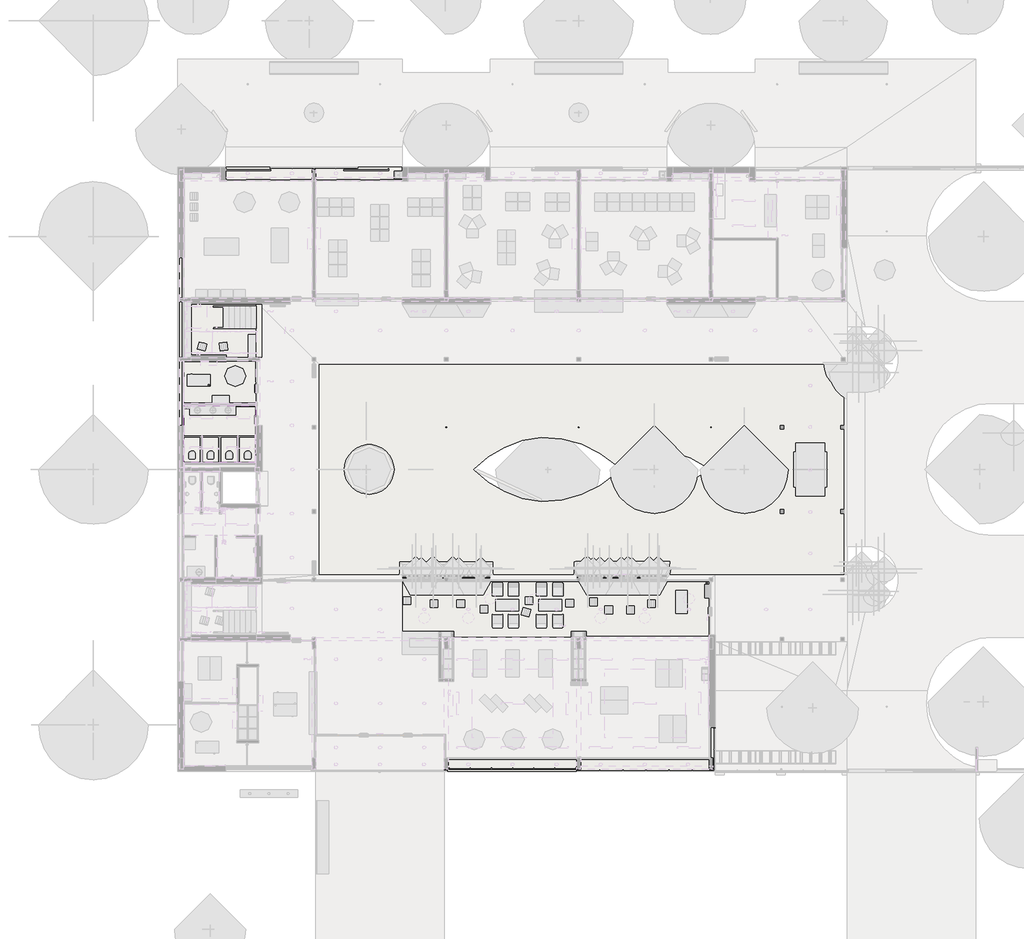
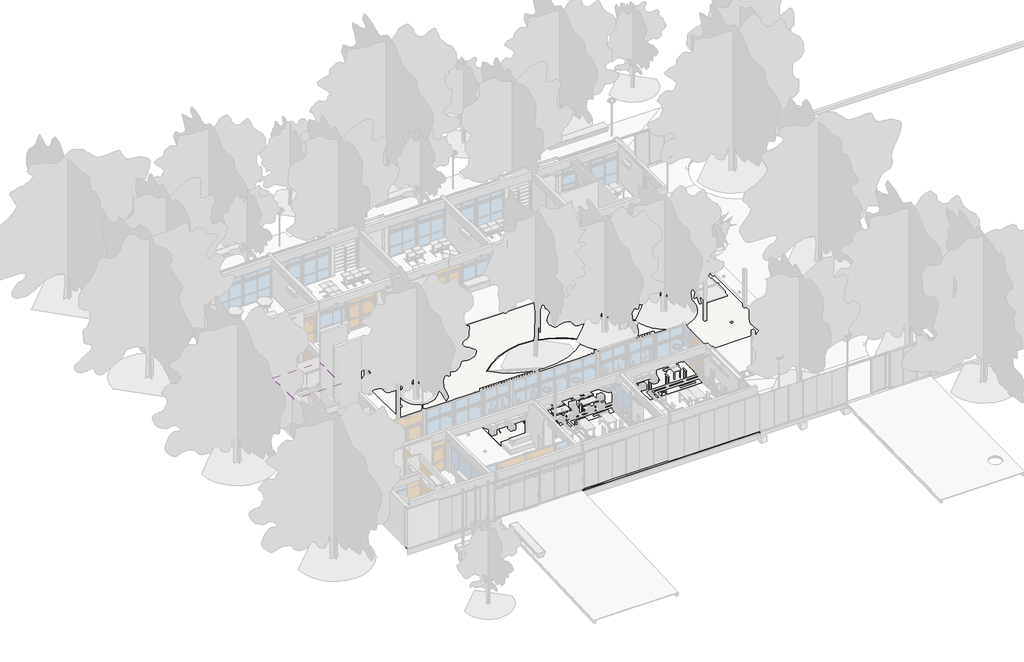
# One storey, part 8 of 22: 19 slabs, 1 covering.
"""IFC4 building model written with IfcOpenShell, lengths in millimetres."""

from ifc_helpers import new_model, si_unit, point, frame, frame_2d, origin, place, context, project, spatial, polyline, circle_curve, trimmed, segment, composite_curve, outline, extrude, faceted_brep, element, save
from ifc_brep_helpers import plane_surface, revolved_surface, advanced_brep

model = new_model("IFC4")

# Units and contexts
model_context = context("Model", 3, world=origin())
ifc_project = project(units=[si_unit("LENGTHUNIT", "METRE", prefix="MILLI")], contexts=[model_context])

# Site, building, storey
site = spatial("IfcSite", under=ifc_project)
building = spatial("IfcBuilding", under=site)
storey = spatial("IfcBuildingStorey", under=building, Name="PLanta baja", Elevation=0.0)

# Covering
placement = place(None, origin())
element("IfcCovering", 1, ObjectType="22-CIEL-PLACA DE YESO PINTADA DE BLANCO CON ESTRUCTURA 45,5MM", at=placement, inside=storey, context=model_context, shape_type="SweptSolid", body=[
    extrude(outline(polyline([(3398.7173694, 19310.2304035), (7158.7173694, 19310.2304035), (7158.7173694, 18270.2304035), (7148.7173694, 18270.2304035), (7148.7173694, 16320.2304035), (3408.7173694, 16320.2304035), (3408.7173694, 18270.2304035), (3398.7173694, 18270.2304035), (3398.7173694, 19310.2304035)])), frame((0.0, 0.0, 2600.0), z_axis=(0.0, 0.0, 1.0), x_axis=(1.0, 0.0, 0.0)), (0.0, 0.0, 1.0), 45.5),
])

# Slabs
element("IfcSlab", 2, ObjectType="C32 ENTABLONADO LAPACHO 5cm", at=placement, inside=storey, context=model_context, shape_type="SweptSolid", body=[
    extrude(outline(polyline([(14788.7173693, 10120.2304035), (30788.7173693, 10120.2304035), (30788.7173693, 7330.2304035), (30773.7173693, 7330.2304035), (30773.7173693, 7220.2304035), (14788.7173693, 7220.2304035), (14788.7173693, 10120.2304035)])), frame((0.0, 0.0, -50.0), z_axis=(0.0, 0.0, 1.0), x_axis=(1.0, 0.0, 0.0)), (0.0, 0.0, 1.0), 50.0),
])
element("IfcSlab", 3, ObjectType="C31 MONOLITICO 30x30 5cm", at=placement, inside=storey, context=model_context, shape_type="Brep", body=[
    faceted_brep([(4263.7173694, 16310.2304035, -50.0), (3408.7173694, 16310.2304035, -50.0), (3398.7173694, 16310.2304035, -50.0), (3398.7173694, 18270.2304035, -50.0), (3398.7173694, 19220.2304035, -50.0), (3713.8731174, 19220.2304035, -50.0), (3713.8731174, 18890.2304035, -50.0), (3833.8731174, 18890.2304035, -50.0), (3833.8731174, 19220.2304035, -50.0), (5618.7173693, 19220.2304035, -50.0), (5993.7173694, 19220.2304035, -50.0), (5993.7173694, 18890.2304035, -50.0), (6113.7173694, 18890.2304035, -50.0), (6113.7173694, 19220.2304035, -50.0), (7168.7173694, 19220.2304035, -50.0), (7168.7173694, 16310.2304035, -50.0), (7148.7173694, 16310.2304035, -50.0), (6293.7173694, 16310.2304035, -50.0), (6293.7173694, 16320.2304035, -50.0), (6293.7173694, 17720.2304035, -50.0), (6193.7173694, 17720.2304035, -50.0), (6193.7173694, 16320.2304035, -50.0), (6193.7173694, 16310.2304035, -50.0), (5328.7173694, 16310.2304035, -50.0), (5328.7173694, 16320.2304035, -50.0), (5328.7173694, 17720.2304035, -50.0), (5228.7173694, 17720.2304035, -50.0), (5228.7173694, 16320.2304035, -50.0), (5228.7173694, 16310.2304035, -50.0), (4363.7173694, 16310.2304035, -50.0), (4363.7173694, 16320.2304035, -50.0), (4363.7173694, 17720.2304035, -50.0), (4263.7173694, 17720.2304035, -50.0), (4263.7173694, 16320.2304035, -50.0), (4263.7173694, 16310.2304035, 0.0), (4263.7173694, 16320.2304035, 0.0), (4263.7173694, 17720.2304035, 0.0), (4363.7173694, 17720.2304035, 0.0), (4363.7173694, 16320.2304035, 0.0), (4363.7173694, 16310.2304035, 0.0), (5228.7173694, 16310.2304035, 0.0), (5228.7173694, 16320.2304035, 0.0), (5228.7173694, 17720.2304035, 0.0), (5328.7173694, 17720.2304035, 0.0), (5328.7173694, 16320.2304035, 0.0), (5328.7173694, 16310.2304035, 0.0), (6193.7173694, 16310.2304035, 0.0), (6193.7173694, 16320.2304035, 0.0), (6193.7173694, 17720.2304035, 0.0), (6293.7173694, 17720.2304035, 0.0), (6293.7173694, 16320.2304035, 0.0), (6293.7173694, 16310.2304035, 0.0), (7148.7173694, 16310.2304035, 0.0), (7168.7173694, 16310.2304035, 0.0), (7168.7173694, 18270.2304035, 0.0), (7168.7173694, 19220.2304035, 0.0), (6113.7173694, 19220.2304035, 0.0), (6113.7173694, 18890.2304035, 0.0), (5993.7173694, 18890.2304035, 0.0), (5993.7173694, 19220.2304035, 0.0), (5618.7173693, 19220.2304035, 0.0), (3833.8731174, 19220.2304035, 0.0), (3833.8731174, 18890.2304035, 0.0), (3713.8731174, 18890.2304035, 0.0), (3713.8731174, 19220.2304035, 0.0), (3398.7173694, 19220.2304035, 0.0), (3398.7173694, 18270.2304035, 0.0), (3398.7173694, 16310.2304035, 0.0), (3408.7173694, 16310.2304035, 0.0)], [[[0, 1, 2, 3, 4, 5, 6, 7, 8, 9, 10, 11, 12, 13, 14, 15, 16, 17, 18, 19, 20, 21, 22, 23, 24, 25, 26, 27, 28, 29, 30, 31, 32, 33]], [[34, 35, 36, 37, 38, 39, 40, 41, 42, 43, 44, 45, 46, 47, 48, 49, 50, 51, 52, 53, 54, 55, 56, 57, 58, 59, 60, 61, 62, 63, 64, 65, 66, 67, 68]], [[2, 1, 0, 34, 68, 67]], [[14, 13, 56, 55]], [[15, 14, 55, 54, 53]], [[17, 16, 15, 53, 52, 51]], [[19, 18, 17, 51, 50, 49]], [[20, 19, 49, 48]], [[22, 21, 20, 48, 47, 46]], [[23, 22, 46, 45]], [[25, 24, 23, 45, 44, 43]], [[26, 25, 43, 42]], [[28, 27, 26, 42, 41, 40]], [[29, 28, 40, 39]], [[31, 30, 29, 39, 38, 37]], [[32, 31, 37, 36]], [[0, 33, 32, 36, 35, 34]], [[4, 3, 2, 67, 66, 65]], [[9, 8, 61, 60]], [[5, 4, 65, 64]], [[6, 5, 64, 63]], [[7, 6, 63, 62]], [[8, 7, 62, 61]], [[10, 9, 60, 59]], [[11, 10, 59, 58]], [[12, 11, 58, 57]], [[13, 12, 57, 56]]]),
])
element("IfcSlab", 4, ObjectType="PODOTÁCTIL 30x30 4 cm", at=placement, inside=storey, context=model_context, shape_type="SweptSolid", body=[
    extrude(outline(polyline([(7468.7173693, 24610.2304035), (7468.7173693, 21820.2304035), (7168.7173693, 21820.2304035), (7168.7173693, 24610.2304035), (7468.7173693, 24610.2304035)])), frame((0.0, 0.0, -50.0), z_axis=(0.0, 0.0, 1.0), x_axis=(1.0, 0.0, 0.0)), (0.0, 0.0, 1.0), 50.0),
])
element("IfcSlab", 5, ObjectType="MESA-INT-Mesada de hormigón-6cm-PET", at=placement, inside=storey, context=model_context, shape_type="AdvancedBrep", body=[
    advanced_brep(
    [(6113.7173694, 19310.2304035, 770.0), (6113.7173694, 18890.2304035, 770.0), (6113.7173694, 18810.2304035, 770.0), (3713.7173694, 18810.2304035, 770.0), (3713.7173694, 19310.2304035, 770.0), (3833.8731174, 19310.2304035, 770.0), (5993.7173694, 19310.2304035, 770.0), (3959.4991213, 19060.2304035, 770.0), (4269.4991213, 19060.2304035, 770.0), (4759.5103783, 19060.2304035, 770.0), (5069.5103783, 19060.2304035, 770.0), (5559.4991213, 19060.2304035, 770.0), (5869.4991213, 19060.2304035, 770.0), (6113.7173694, 19310.2304035, 830.0), (3713.7173694, 19310.2304035, 830.0), (3713.7173694, 18810.2304035, 830.0), (6113.7173694, 18810.2304035, 830.0), (3959.4991213, 19060.2304035, 830.0), (4269.4991213, 19060.2304035, 830.0), (4759.5103783, 19060.2304035, 830.0), (5069.5103783, 19060.2304035, 830.0), (5559.4991213, 19060.2304035, 830.0), (5869.4991213, 19060.2304035, 830.0)],
    [
        (0, 1),
        (1, 2),
        (2, 3),
        (3, 4),
        (4, 5),
        (5, 6),
        (6, 0),
        (7, 8, circle_curve(frame((4114.4991213, 19060.2304035, 770.0), z_axis=(0.0, 0.0, 1.0), x_axis=(1.0, 0.0, 0.0)), 155.0)),
        (8, 7, circle_curve(frame((4114.4991213, 19060.2304035, 770.0), z_axis=(0.0, 0.0, 1.0), x_axis=(1.0, 0.0, 0.0)), 155.0)),
        (9, 10, circle_curve(frame((4914.5103783, 19060.2304035, 770.0), z_axis=(0.0, 0.0, 1.0), x_axis=(1.0, 0.0, 0.0)), 155.0)),
        (10, 9, circle_curve(frame((4914.5103783, 19060.2304035, 770.0), z_axis=(0.0, 0.0, 1.0), x_axis=(1.0, 0.0, 0.0)), 155.0)),
        (11, 12, circle_curve(frame((5714.4991213, 19060.2304035, 770.0), z_axis=(0.0, 0.0, 1.0), x_axis=(1.0, 0.0, 0.0)), 155.0)),
        (12, 11, circle_curve(frame((5714.4991213, 19060.2304035, 770.0), z_axis=(0.0, 0.0, 1.0), x_axis=(1.0, 0.0, 0.0)), 155.0)),
        (13, 14),
        (14, 15),
        (15, 16),
        (16, 13),
        (17, 18, circle_curve(frame((4114.4991213, 19060.2304035, 830.0), z_axis=(0.0, 0.0, -1.0), x_axis=(1.0, 0.0, 0.0)), 155.0)),
        (18, 17, circle_curve(frame((4114.4991213, 19060.2304035, 830.0), z_axis=(0.0, 0.0, -1.0), x_axis=(1.0, 0.0, 0.0)), 155.0)),
        (19, 20, circle_curve(frame((4914.5103783, 19060.2304035, 830.0), z_axis=(0.0, 0.0, -1.0), x_axis=(1.0, 0.0, 0.0)), 155.0)),
        (20, 19, circle_curve(frame((4914.5103783, 19060.2304035, 830.0), z_axis=(0.0, 0.0, -1.0), x_axis=(1.0, 0.0, 0.0)), 155.0)),
        (21, 22, circle_curve(frame((5714.4991213, 19060.2304035, 830.0), z_axis=(0.0, 0.0, -1.0), x_axis=(1.0, 0.0, 0.0)), 155.0)),
        (22, 21, circle_curve(frame((5714.4991213, 19060.2304035, 830.0), z_axis=(0.0, 0.0, -1.0), x_axis=(1.0, 0.0, 0.0)), 155.0)),
        (0, 13),
        (16, 2),
        (15, 3),
        (14, 4),
        (7, 17),
        (18, 8),
        (9, 19),
        (20, 10),
        (11, 21),
        (22, 12),
    ],
    [
        plane_surface(frame((6113.7173694, 19310.2304035, 770.0), z_axis=(0.0, 0.0, -1.0), x_axis=(0.0, -1.0, 0.0))),
        plane_surface(frame((6113.7173694, 19310.2304035, 830.0), z_axis=(0.0, 0.0, 1.0), x_axis=(0.0, 1.0, 0.0))),
        plane_surface(frame((6113.7173694, 19310.2304035, 770.0), z_axis=(1.0, 0.0, 0.0), x_axis=(0.0, 0.0, 1.0))),
        plane_surface(frame((6113.7173694, 18810.2304035, 770.0), z_axis=(0.0, -1.0, 0.0), x_axis=(0.0, 0.0, 1.0))),
        plane_surface(frame((3713.7173694, 18810.2304035, 770.0), z_axis=(-1.0, 0.0, 0.0), x_axis=(0.0, 0.0, 1.0))),
        plane_surface(frame((3713.7173694, 19310.2304035, 770.0), z_axis=(0.0, 1.0, 0.0), x_axis=(0.0, 0.0, 1.0))),
        revolved_surface(polyline([(4269.4991213, 19060.2304035, 830.0), (4269.4991213, 19060.2304035, 770.0)]), (4114.4991213, 19060.2304035, 0.0), (0.0, 0.0, 1.0)),
        revolved_surface(polyline([(5069.5103783, 19060.2304035, 830.0), (5069.5103783, 19060.2304035, 770.0)]), (4914.5103783, 19060.2304035, 0.0), (0.0, 0.0, 1.0)),
        revolved_surface(polyline([(5869.4991213, 19060.2304035, 830.0), (5869.4991213, 19060.2304035, 770.0)]), (5714.4991213, 19060.2304035, 0.0), (0.0, 0.0, 1.0)),
    ],
    [
        (0, [[1, 2, 3, 4, 5, 6, 7], [8, 9], [10, 11], [12, 13]]),
        (1, [[14, 15, 16, 17], [18, 19], [20, 21], [22, 23]]),
        (2, [[-2, -1, 24, -17, 25]]),
        (3, [[-3, -25, -16, 26]]),
        (4, [[-4, -26, -15, 27]]),
        (5, [[-7, -6, -5, -27, -14, -24]]),
        (6, [[-8, 28, -19, 29]]),
        (6, [[-9, -29, -18, -28]]),
        (7, [[-10, 30, -21, 31]]),
        (7, [[-11, -31, -20, -30]]),
        (8, [[-12, 32, -23, 33]]),
        (8, [[-13, -33, -22, -32]]),
    ],
),
])
element("IfcSlab", 6, ObjectType="C32 ENTABLONADO LAPACHO 5cm", at=placement, inside=storey, context=model_context, shape_type="SweptSolid", body=[
    extrude(outline(polyline([(3788.7173693, 24720.2304035), (3788.7173693, 24610.2304035), (7168.7173693, 24610.2304035), (7168.7173693, 21820.2304035), (5618.7173693, 21820.2304035), (5618.7173693, 21930.2304035), (3788.7173693, 21930.2304035), (3788.7173693, 21820.2304035), (3388.7173693, 21820.2304035), (3388.7173693, 24720.2304035), (3788.7173693, 24720.2304035)])), frame((0.0, 0.0, -450.0), z_axis=(0.0, 0.0, 1.0), x_axis=(1.0, 0.0, 0.0)), (0.0, 0.0, 1.0), 50.0),
])
element("IfcSlab", 7, ObjectType="C30 MONOLITICO 30x30 5cm", at=placement, inside=storey, context=model_context, shape_type="Brep", body=[
    faceted_brep([(10088.7173694, 31095.2304035, -50.0), (5588.7173694, 31095.2304035, -50.0), (5588.7173694, 31730.2304035, -50.0), (14788.7173693, 31730.2304035, -50.0), (14788.7173693, 31095.2304035, -50.0), (10288.7173694, 31095.2304035, -50.0), (10288.7173694, 31620.2304035, -50.0), (10088.7173694, 31620.2304035, -50.0), (10088.7173694, 31095.2304035, 0.0), (5588.7173694, 31095.2304035, 0.0), (5588.7173694, 31730.2304035, -30.0), (14788.7173693, 31730.2304035, -30.0), (14788.7173693, 31095.2304035, 0.0), (10288.7173694, 31095.2304035, 0.0), (10088.7173694, 31620.2304035, -24.8031496), (10288.7173694, 31620.2304035, -24.8031496)], [[[0, 1, 2, 3, 4, 5, 6, 7]], [[1, 0, 8, 9]], [[2, 1, 9, 10]], [[3, 2, 10, 11]], [[4, 3, 11, 12]], [[5, 4, 12, 13]], [[10, 9, 8, 14, 15, 13, 12, 11]], [[15, 6, 5, 13]], [[7, 14, 8, 0]], [[6, 15, 14, 7]]]),
])
element("IfcSlab", 8, ObjectType="C30 MONOLITICO 30x30 5cm", at=placement, inside=storey, context=model_context, shape_type="Brep", body=[
    faceted_brep([(31098.7173693, 2520.2304035, -50.0), (31098.7173693, 210.2304035, -50.0), (16988.7173694, 210.2304035, -50.0), (16988.7173694, 320.2304035, -50.0), (17188.7173694, 320.2304035, -50.0), (17188.7173694, 845.2304035, -50.0), (23888.7173694, 845.2304035, -50.0), (23888.7173694, 320.2304035, -50.0), (24088.7173694, 320.2304035, -50.0), (24088.7173694, 845.2304035, -50.0), (30788.7173694, 845.2304035, -50.0), (30788.7173694, 320.2304035, -50.0), (30988.7173693, 320.2304035, -50.0), (30988.7173693, 920.2304035, -50.0), (30863.7173694, 920.2304035, -50.0), (30863.7173694, 2520.2304035, -50.0), (31098.7173693, 2520.2304035, -30.0), (31098.7173693, 210.2304035, -30.0), (16988.7173694, 210.2304035, -30.0), (16988.7173694, 320.2304035, -24.8031496), (24088.7173694, 845.2304035, 0.0), (30788.7173694, 845.2304035, 0.0), (17188.7173694, 845.2304035, 0.0), (23888.7173694, 845.2304035, 0.0), (30988.7173693, 507.4644461, -15.9574468), (30988.7173693, 320.2304035, -24.8031496), (30788.7173694, 320.2304035, -24.8031496), (24088.7173694, 320.2304035, -24.8031496), (23888.7173694, 320.2304035, -24.8031496), (17188.7173694, 320.2304035, -24.8031496), (30863.7173694, 2520.2304035, 0.0), (30863.7173694, 920.2304035, 0.0), (30988.7173693, 920.2304035, -15.9574468)], [[[0, 1, 2, 3, 4, 5, 6, 7, 8, 9, 10, 11, 12, 13, 14, 15]], [[1, 0, 16, 17]], [[2, 1, 17, 18]], [[2, 18, 19, 3]], [[10, 9, 20, 21]], [[6, 5, 22, 23]], [[18, 17, 24, 25, 26, 21, 20, 27, 28, 23, 22, 29, 19]], [[30, 15, 14, 31]], [[0, 15, 30, 16]], [[12, 25, 24, 32, 13]], [[25, 12, 11, 26]], [[26, 11, 10, 21]], [[13, 32, 31, 14]], [[8, 27, 20, 9]], [[27, 8, 7, 28]], [[28, 7, 6, 23]], [[4, 29, 22, 5]], [[29, 4, 3, 19]], [[16, 30, 31, 32, 24, 17]]]),
])
element("IfcSlab", 9, ObjectType="Alisado AyP con hidrófugo", at=placement, inside=storey, context=model_context, shape_type="SweptSolid", body=[
    extrude(outline(polyline([(920.2304035, -50.0), (398.2304035, -50.0), (398.2304035, -30.0), (845.2304035, 0.0), (920.2304035, 0.0), (920.2304035, -50.0)])), frame((24088.7173693, 0.0, 0.0), z_axis=(1.0, 0.0, 0.0), x_axis=(0.0, 1.0, 0.0)), (0.0, 0.0, 1.0), 6700.0),
])
element("IfcSlab", 10, ObjectType="Alisado AyP con hidrófugo", at=placement, inside=storey, context=model_context, shape_type="SweptSolid", body=[
    extrude(outline(polyline([(-50.0, 3188.7173693), (-50.0, 3388.7173694), (0.0, 3388.7173694), (0.0, 3313.7173694), (-30.0, 3188.7173693), (-50.0, 3188.7173693)])), frame((0.0, 21820.2304035, 0.0), z_axis=(0.0, 1.0, 0.0), x_axis=(0.0, 0.0, 1.0)), (0.0, 0.0, 1.0), 2900.0),
])
element("IfcSlab", 11, ObjectType="Alisado AyP con hidrófugo", at=placement, inside=storey, context=model_context, shape_type="SweptSolid", body=[
    extrude(outline(polyline([(-50.0, 3188.7173693), (-50.0, 3388.7173694), (0.0, 3388.7173694), (0.0, 3313.7173694), (-30.0, 3188.7173693), (-50.0, 3188.7173693)])), frame((0.0, 24920.2304035, 0.0), z_axis=(0.0, 1.0, 0.0), x_axis=(0.0, 0.0, 1.0)), (0.0, 0.0, 1.0), 2100.0),
])
element("IfcSlab", 12, ObjectType="Alisado AyP con hidrófugo", at=placement, inside=storey, context=model_context, shape_type="Brep", body=[
    faceted_brep([(3398.7173694, 19320.2304035, -50.0), (3398.7173694, 18270.2304035, -50.0), (3178.7173693, 18270.2304035, -50.0), (3178.7173693, 21620.2304035, -50.0), (3398.7173694, 21620.2304035, -50.0), (3398.7173694, 19420.2304035, -50.0), (3298.7173694, 19420.2304035, -50.0), (3298.7173694, 19320.2304035, -50.0), (3398.7173694, 19320.2304035, 0.0), (3398.7173694, 18270.2304035, 0.0), (3323.6458005, 18270.2304035, 0.0), (3178.7173693, 18270.2304035, -30.0), (3178.7173693, 21620.2304035, -30.0), (3323.6458005, 21620.2304035, 0.0), (3398.7173694, 21620.2304035, 0.0), (3323.6458005, 19320.2304035, 0.0), (3298.7173694, 19320.2304035, -5.1601534), (3298.7173694, 19420.2304035, -5.1601534), (3323.6458005, 19420.2304035, 0.0), (3398.7173694, 19420.2304035, 0.0)], [[[0, 1, 2, 3, 4, 5, 6, 7]], [[1, 0, 8, 9]], [[2, 1, 9, 10, 11]], [[3, 2, 11, 12]], [[4, 3, 12, 13, 14]], [[12, 11, 10, 15, 16, 17, 18, 13]], [[5, 4, 14, 19]], [[6, 5, 19, 18, 17]], [[7, 6, 17, 16]], [[0, 7, 16, 15, 8]], [[9, 8, 15, 10]], [[19, 14, 13, 18]]]),
])
element("IfcSlab", 13, ObjectType="Sub base y descalce fundaciones 35cm", at=placement, inside=storey, context=model_context, shape_type="Brep", body=[
    faceted_brep([(10088.7173694, 7020.2304035, -510.0), (10088.7173694, 520.2304035, -510.0), (3398.7173694, 520.2304035, -510.0), (3398.7173694, 7020.2304035, -510.0), (6663.7173693, 7020.2304035, -160.0), (3398.7173694, 7020.2304035, -160.0), (3398.7173694, 3843.5637368, -160.0), (6663.7173693, 3843.5637368, -160.0), (10088.7173694, 7020.2304035, -160.0), (6813.7173693, 7020.2304035, -160.0), (6813.7173693, 3843.5637368, -160.0), (10088.7173694, 3843.5637368, -160.0), (3398.7173694, 520.2304035, -160.0), (6663.7173693, 520.2304035, -160.0), (6663.7173693, 3693.5637368, -160.0), (3398.7173694, 3693.5637368, -160.0), (6813.7173693, 520.2304035, -160.0), (10088.7173694, 520.2304035, -160.0), (10088.7173694, 3693.5637368, -160.0), (6813.7173693, 3693.5637368, -160.0), (10088.7173694, 3843.5637368, -410.0), (10088.7173694, 3693.5637368, -410.0), (6813.7173693, 520.2304035, -410.0), (6663.7173693, 520.2304035, -410.0), (3398.7173694, 3693.5637368, -410.0), (3398.7173694, 3843.5637368, -410.0), (6663.7173693, 7020.2304035, -410.0), (6813.7173693, 7020.2304035, -410.0), (6663.7173693, 3693.5637368, -410.0), (6663.7173693, 3843.5637368, -410.0), (6813.7173693, 3693.5637368, -410.0), (6813.7173693, 3843.5637368, -410.0)], [[[0, 1, 2, 3]], [[4, 5, 6, 7]], [[8, 9, 10, 11]], [[12, 13, 14, 15]], [[16, 17, 18, 19]], [[1, 0, 8, 11, 20, 21, 18, 17]], [[2, 1, 17, 16, 22, 23, 13, 12]], [[3, 2, 12, 15, 24, 25, 6, 5]], [[0, 3, 5, 4, 26, 27, 9, 8]], [[13, 23, 28, 14]], [[26, 4, 7, 29]], [[23, 22, 30, 21, 20, 31, 27, 26, 29, 25, 24, 28]], [[22, 16, 19, 30]], [[9, 27, 31, 10]], [[21, 30, 19, 18]], [[28, 24, 15, 14]], [[31, 20, 11, 10]], [[25, 29, 7, 6]]]),
    faceted_brep([(16988.7173694, 7020.2304035, -510.0), (16988.7173694, 520.2304035, -510.0), (10288.7173694, 520.2304035, -510.0), (10288.7173694, 7020.2304035, -510.0), (16988.7173694, 520.2304035, -160.0), (16988.7173694, 3693.5637368, -160.0), (13713.7173693, 3693.5637368, -160.0), (13713.7173693, 520.2304035, -160.0), (16988.7173694, 3843.5637368, -160.0), (16988.7173694, 7020.2304035, -160.0), (13713.7173693, 7020.2304035, -160.0), (13713.7173693, 3843.5637368, -160.0), (10288.7173694, 520.2304035, -160.0), (13563.7173693, 520.2304035, -160.0), (13563.7173693, 3693.5637368, -160.0), (10288.7173694, 3693.5637368, -160.0), (13563.7173693, 7020.2304035, -160.0), (10288.7173694, 7020.2304035, -160.0), (10288.7173694, 3843.5637368, -160.0), (13563.7173693, 3843.5637368, -160.0), (16988.7173694, 3843.5637368, -410.0), (16988.7173694, 3693.5637368, -410.0), (13713.7173693, 520.2304035, -410.0), (13563.7173693, 520.2304035, -410.0), (10288.7173694, 3693.5637368, -410.0), (10288.7173694, 3843.5637368, -410.0), (13563.7173693, 7020.2304035, -410.0), (13713.7173693, 7020.2304035, -410.0), (13563.7173693, 3693.5637368, -410.0), (13563.7173693, 3843.5637368, -410.0), (13713.7173693, 3693.5637368, -410.0), (13713.7173693, 3843.5637368, -410.0)], [[[0, 1, 2, 3]], [[4, 5, 6, 7]], [[8, 9, 10, 11]], [[12, 13, 14, 15]], [[16, 17, 18, 19]], [[1, 0, 9, 8, 20, 21, 5, 4]], [[2, 1, 4, 7, 22, 23, 13, 12]], [[3, 2, 12, 15, 24, 25, 18, 17]], [[0, 3, 17, 16, 26, 27, 10, 9]], [[13, 23, 28, 14]], [[26, 16, 19, 29]], [[23, 22, 30, 21, 20, 31, 27, 26, 29, 25, 24, 28]], [[22, 7, 6, 30]], [[10, 27, 31, 11]], [[21, 30, 6, 5]], [[28, 24, 15, 14]], [[31, 20, 8, 11]], [[25, 29, 19, 18]]]),
    faceted_brep([(23888.7173694, 7020.2304035, -510.0), (23888.7173694, 520.2304035, -510.0), (17188.7173694, 520.2304035, -510.0), (17188.7173694, 7020.2304035, -510.0), (23888.7173694, 520.2304035, -160.0), (23888.7173694, 3693.5637368, -160.0), (20613.7173694, 3693.5637368, -160.0), (20613.7173694, 520.2304035, -160.0), (23888.7173694, 3843.5637368, -160.0), (23888.7173694, 7020.2304035, -160.0), (20613.7173694, 7020.2304035, -160.0), (20613.7173694, 3843.5637368, -160.0), (17188.7173694, 3693.5637368, -160.0), (17188.7173694, 520.2304035, -160.0), (20463.7173694, 520.2304035, -160.0), (20463.7173694, 3693.5637368, -160.0), (17188.7173694, 7020.2304035, -160.0), (17188.7173694, 3843.5637368, -160.0), (20463.7173694, 3843.5637368, -160.0), (20463.7173694, 7020.2304035, -160.0), (23888.7173694, 3843.5637368, -410.0), (23888.7173694, 3693.5637368, -410.0), (20613.7173694, 520.2304035, -410.0), (20463.7173694, 520.2304035, -410.0), (17188.7173694, 3693.5637368, -410.0), (17188.7173694, 3843.5637368, -410.0), (20463.7173694, 7020.2304035, -410.0), (20613.7173694, 7020.2304035, -410.0), (20613.7173694, 3693.5637368, -410.0), (20463.7173694, 3693.5637368, -410.0), (20613.7173694, 3843.5637368, -410.0), (20463.7173694, 3843.5637368, -410.0)], [[[0, 1, 2, 3]], [[4, 5, 6, 7]], [[8, 9, 10, 11]], [[12, 13, 14, 15]], [[16, 17, 18, 19]], [[1, 0, 9, 8, 20, 21, 5, 4]], [[2, 1, 4, 7, 22, 23, 14, 13]], [[3, 2, 13, 12, 24, 25, 17, 16]], [[0, 3, 16, 19, 26, 27, 10, 9]], [[5, 21, 28, 6]], [[24, 12, 15, 29]], [[21, 20, 30, 27, 26, 31, 25, 24, 29, 23, 22, 28]], [[20, 8, 11, 30]], [[17, 25, 31, 18]], [[23, 29, 15, 14]], [[31, 26, 19, 18]], [[28, 22, 7, 6]], [[27, 30, 11, 10]]]),
    faceted_brep([(30788.7173693, 7020.2304035, -510.0), (30788.7173693, 520.2304035, -510.0), (24088.7173694, 520.2304035, -510.0), (24088.7173694, 7020.2304035, -510.0), (24088.7173694, 3693.5637368, -160.0), (24088.7173694, 520.2304035, -160.0), (27363.7173693, 520.2304035, -160.0), (27363.7173693, 3693.5637368, -160.0), (24088.7173694, 7020.2304035, -160.0), (24088.7173694, 3843.5637368, -160.0), (27363.7173693, 3843.5637368, -160.0), (27363.7173693, 7020.2304035, -160.0), (30788.7173693, 520.2304035, -160.0), (30788.7173693, 3693.5637368, -160.0), (27513.7173693, 3693.5637368, -160.0), (27513.7173693, 520.2304035, -160.0), (30788.7173693, 3843.5637368, -160.0), (30788.7173693, 7020.2304035, -160.0), (27513.7173693, 7020.2304035, -160.0), (27513.7173693, 3843.5637368, -160.0), (30788.7173693, 3843.5637368, -410.0), (30788.7173693, 3693.5637368, -410.0), (27513.7173693, 520.2304035, -410.0), (27363.7173693, 520.2304035, -410.0), (24088.7173694, 3693.5637368, -410.0), (24088.7173694, 3843.5637368, -410.0), (27363.7173693, 7020.2304035, -410.0), (27513.7173693, 7020.2304035, -410.0), (27513.7173693, 3693.5637368, -410.0), (27363.7173693, 3693.5637368, -410.0), (27513.7173693, 3843.5637368, -410.0), (27363.7173693, 3843.5637368, -410.0)], [[[0, 1, 2, 3]], [[4, 5, 6, 7]], [[8, 9, 10, 11]], [[12, 13, 14, 15]], [[16, 17, 18, 19]], [[1, 0, 17, 16, 20, 21, 13, 12]], [[2, 1, 12, 15, 22, 23, 6, 5]], [[3, 2, 5, 4, 24, 25, 9, 8]], [[0, 3, 8, 11, 26, 27, 18, 17]], [[13, 21, 28, 14]], [[24, 4, 7, 29]], [[21, 20, 30, 27, 26, 31, 25, 24, 29, 23, 22, 28]], [[20, 16, 19, 30]], [[9, 25, 31, 10]], [[23, 29, 7, 6]], [[31, 26, 11, 10]], [[28, 22, 15, 14]], [[27, 30, 19, 18]]]),
    faceted_brep([(30788.7173693, 10120.2304035, -510.0), (30788.7173693, 7220.2304035, -510.0), (28688.7173693, 7220.2304035, -510.0), (28688.7173693, 10120.2304035, -510.0), (30788.7173693, 7220.2304035, -160.0), (30788.7173693, 10120.2304035, -160.0), (28688.7173693, 10120.2304035, -160.0), (28688.7173693, 7220.2304035, -160.0), (30788.7173693, 10120.2304035, -300.0), (28688.7173693, 7220.2304035, -410.0), (28688.7173693, 10120.2304035, -410.0)], [[[0, 1, 2, 3]], [[4, 5, 6, 7]], [[1, 0, 8, 5, 4]], [[2, 1, 4, 7, 9]], [[3, 2, 9, 7, 6, 10]], [[0, 3, 10, 6, 5, 8]]]),
    faceted_brep([(28388.7173693, 10120.2304035, -510.0), (28388.7173693, 7220.2304035, -510.0), (24088.7173694, 7220.2304035, -510.0), (24088.7173694, 10120.2304035, -510.0), (28388.7173693, 7220.2304035, -160.0), (28388.7173693, 10120.2304035, -160.0), (24088.7173694, 10120.2304035, -160.0), (24088.7173694, 7220.2304035, -160.0), (27363.7173693, 7220.2304035, -160.0), (27513.7173693, 7220.2304035, -160.0), (28388.7173693, 10120.2304035, -410.0), (28388.7173693, 7220.2304035, -410.0)], [[[0, 1, 2, 3]], [[4, 5, 6, 7, 8, 9]], [[1, 0, 10, 5, 4, 11]], [[2, 1, 11, 4, 9, 8, 7]], [[3, 2, 7, 6]], [[0, 3, 6, 5, 10]]]),
    faceted_brep([(23888.7173694, 10120.2304035, -510.0), (23888.7173694, 7220.2304035, -510.0), (19488.7173694, 7220.2304035, -510.0), (19488.7173694, 10120.2304035, -510.0), (23888.7173694, 7220.2304035, -160.0), (23888.7173694, 10120.2304035, -160.0), (19488.7173694, 10120.2304035, -160.0), (19488.7173694, 7220.2304035, -160.0), (20463.7173694, 7220.2304035, -160.0), (20613.7173694, 7220.2304035, -160.0), (19488.7173694, 7220.2304035, -410.0), (19488.7173694, 10120.2304035, -410.0)], [[[0, 1, 2, 3]], [[4, 5, 6, 7, 8, 9]], [[1, 0, 5, 4]], [[2, 1, 4, 9, 8, 7, 10]], [[3, 2, 10, 7, 6, 11]], [[0, 3, 11, 6, 5]]]),
    faceted_brep([(19188.7173694, 10120.2304035, -510.0), (19188.7173694, 7220.2304035, -510.0), (17188.7173694, 7220.2304035, -510.0), (17188.7173694, 10120.2304035, -510.0), (19188.7173694, 7220.2304035, -160.0), (19188.7173694, 10120.2304035, -160.0), (17188.7173694, 10120.2304035, -160.0), (17188.7173694, 7220.2304035, -160.0), (19188.7173694, 10120.2304035, -410.0), (19188.7173694, 7220.2304035, -410.0)], [[[0, 1, 2, 3]], [[4, 5, 6, 7]], [[1, 0, 8, 5, 4, 9]], [[2, 1, 9, 4, 7]], [[3, 2, 7, 6]], [[0, 3, 6, 5, 8]]]),
    faceted_brep([(16988.7173694, 10120.2304035, -510.0), (16988.7173694, 7220.2304035, -510.0), (14988.7173693, 7220.2304035, -510.0), (14988.7173693, 10120.2304035, -510.0), (16988.7173694, 7220.2304035, -160.0), (16988.7173694, 10120.2304035, -160.0), (14988.7173693, 10120.2304035, -160.0), (14988.7173693, 7220.2304035, -160.0), (14988.7173693, 7220.2304035, -410.0), (14988.7173693, 10120.2304035, -410.0)], [[[0, 1, 2, 3]], [[4, 5, 6, 7]], [[1, 0, 5, 4]], [[2, 1, 4, 7, 8]], [[3, 2, 8, 7, 6, 9]], [[0, 3, 9, 6, 5]]]),
    faceted_brep([(14688.7173693, 10120.2304035, -510.0), (14688.7173693, 7220.2304035, -510.0), (10288.7173694, 7220.2304035, -510.0), (10288.7173694, 10120.2304035, -510.0), (14688.7173693, 7220.2304035, -160.0), (14688.7173693, 10120.2304035, -160.0), (10288.7173694, 10120.2304035, -160.0), (10288.7173694, 7220.2304035, -160.0), (13563.7173693, 7220.2304035, -160.0), (13713.7173693, 7220.2304035, -160.0), (14688.7173693, 10120.2304035, -410.0), (14688.7173693, 7220.2304035, -410.0)], [[[0, 1, 2, 3]], [[4, 5, 6, 7, 8, 9]], [[1, 0, 10, 5, 4, 11]], [[2, 1, 11, 4, 9, 8, 7]], [[3, 2, 7, 6]], [[0, 3, 6, 5, 10]]]),
    faceted_brep([(10088.7173694, 10120.2304035, -510.0), (10088.7173694, 7220.2304035, -510.0), (7368.7173694, 7220.2304035, -510.0), (7368.7173694, 10120.2304035, -510.0), (10088.7173694, 7220.2304035, -160.0), (10088.7173694, 10120.2304035, -160.0), (7368.7173694, 10120.2304035, -160.0), (7368.7173694, 7220.2304035, -160.0), (10088.7173694, 10120.2304035, -410.0), (7368.7173694, 10120.2304035, -410.0)], [[[0, 1, 2, 3]], [[4, 5, 6, 7]], [[1, 0, 8, 5, 4]], [[2, 1, 4, 7]], [[3, 2, 7, 6, 9]], [[0, 3, 9, 6, 5, 8]]]),
    faceted_brep([(31098.7173693, 7220.2304035, -510.0), (30988.7173693, 7220.2304035, -510.0), (30988.7173693, 10320.2304035, -510.0), (10438.7173693, 10320.2304035, -510.0), (10438.7173693, 10470.2304035, -510.0), (31098.7173693, 10470.2304035, -510.0), (30988.7173693, 7220.2304035, -160.0), (31098.7173693, 7220.2304035, -160.0), (31098.7173693, 10470.2304035, -160.0), (10438.7173693, 10470.2304035, -160.0), (10438.7173693, 10320.2304035, -160.0), (30988.7173693, 10320.2304035, -160.0), (30988.7173693, 10320.2304035, -300.0)], [[[0, 1, 2, 3, 4, 5]], [[6, 7, 8, 9, 10, 11]], [[1, 0, 7, 6]], [[2, 1, 6, 11, 12]], [[3, 2, 12, 11, 10]], [[4, 3, 10, 9]], [[5, 4, 9, 8]], [[0, 5, 8, 7]]]),
])
element("IfcSlab", 14, ObjectType="P2 Adoquín hormigón- Sustrato de Arena", at=placement, inside=storey, context=model_context, shape_type="SweptSolid", body=[
    extrude(outline(polyline([(19538.7173693, 11180.2304035), (14638.7173693, 11180.2304035), (14638.7173693, 10470.2304035), (10438.7173693, 10470.2304035), (10438.7173693, 21470.2304035), (37848.7173693, 21470.2304035), (37848.7173693, 360.2304035), (31118.8673693, 360.2304035), (31118.8673693, 210.2304035), (31098.7173693, 210.2304035), (31098.7173693, 10470.2304035), (28738.7837445, 10470.2304035), (28738.7837445, 11180.2304035), (23738.7922476, 11180.2304035), (23738.7922476, 10470.2304035), (19538.7173693, 10470.2304035), (19538.7173693, 11180.2304035)]), holes=[composite_curve([segment(trimmed(circle_curve(frame_2d((13066.2072458, 15970.2304035)), 1297.0376717), [point((14363.2449174, 15970.2304035))], [point((11769.1695741, 15970.2304035))], True, "CARTESIAN"), True, "CONTINUOUS"), segment(trimmed(circle_curve(frame_2d((13066.2072458, 15970.2304035)), 1297.0376717), [point((11769.1695741, 15970.2304035))], [point((14363.2449174, 15970.2304035))], True, "CARTESIAN"), True, "CONTINUOUS")], self_intersect=False), composite_curve([segment(trimmed(circle_curve(frame_2d((22514.3726379, 12117.0345569)), 5548.8970339), [point((22030.4157003, 17644.7867199))], [point((18520.2543699, 15968.9532417))], True, "CARTESIAN"), True, "CONTINUOUS"), segment(trimmed(circle_curve(frame_2d((22514.3726379, 19820.8719266)), 5548.8970339), [point((18520.2543699, 15968.9532417))], [point((22030.4157003, 14293.1197635))], True, "CARTESIAN"), True, "CONTINUOUS"), segment(trimmed(circle_curve(frame_2d((22160.4594126, 19859.5289734)), 5567.928058), [point((22030.4157003, 14293.1197635))], [point((25942.789117, 15773.4789411))], True, "CARTESIAN"), True, "CONTINUOUS"), segment(trimmed(circle_curve(frame_2d((28334.3684631, 19104.0145882)), 4100.2584632), [point((25942.789117, 15773.4789411))], [point((28158.2557407, 15007.5400339))], True, "CARTESIAN"), True, "CONTINUOUS"), segment(trimmed(circle_curve(frame_2d((28089.0961946, 19182.5665386)), 4175.5992812), [point((28158.2557407, 15007.5400339))], [point((30528.4394119, 15793.5793705))], True, "CARTESIAN"), True, "CONTINUOUS"), segment(polyline([(30528.4394119, 15793.5793705), (31904.001373, 14881.0549335)]), True, "CONTINUOUS"), segment(trimmed(circle_curve(frame_2d((32613.7173693, 15970.2304035)), 1300.0), [point((31904.001373, 14881.0549335))], [point((31904.0014058, 17059.4058949))], True, "CARTESIAN"), True, "CONTINUOUS"), segment(polyline([(31904.0014058, 17059.4058949), (30526.5921404, 16145.6559879)]), True, "CONTINUOUS"), segment(trimmed(circle_curve(frame_2d((28089.0961946, 12755.3399449)), 4175.5992812), [point((30526.5921404, 16145.6559879))], [point((28158.2557407, 16930.3664495))], True, "CARTESIAN"), True, "CONTINUOUS"), segment(trimmed(circle_curve(frame_2d((28334.3684631, 12833.8918953)), 4100.2584632), [point((28158.2557407, 16930.3664495))], [point((25942.789117, 16164.4275423))], True, "CARTESIAN"), True, "CONTINUOUS"), segment(trimmed(circle_curve(frame_2d((22160.4594126, 12078.37751)), 5567.928058), [point((25942.789117, 16164.4275423))], [point((22030.4157003, 17644.7867199))], True, "CARTESIAN"), True, "CONTINUOUS")], self_intersect=False), composite_curve([segment(trimmed(circle_curve(frame_2d((36168.9133197, 3590.2304035)), 950.0), [point((37118.9133197, 3590.2304035))], [point((35218.9133197, 3590.2304035))], True, "CARTESIAN"), True, "CONTINUOUS"), segment(trimmed(circle_curve(frame_2d((36168.9133197, 3590.2304035)), 950.0), [point((35218.9133197, 3590.2304035))], [point((37118.9133197, 3590.2304035))], True, "CARTESIAN"), True, "CONTINUOUS")], self_intersect=False)]), frame((0.0, 0.0, -140.0), z_axis=(0.0, 0.0, 1.0), x_axis=(1.0, 0.0, 0.0)), (0.0, 0.0, 1.0), 50.0),
])
element("IfcSlab", 15, ObjectType="Sub base y descalce fundaciones 35cm", at=placement, inside=storey, context=model_context, shape_type="SweptSolid", body=[
    extrude(outline(polyline([(7168.7173693, 19420.2304035), (3398.7173694, 19420.2304035), (3398.7173694, 21620.2304035), (5618.7173693, 21620.2304035), (7168.7173693, 21620.2304035), (7168.7173693, 19420.2304035)])), frame((0.0, 0.0, -510.0), z_axis=(0.0, 0.0, 1.0), x_axis=(1.0, 0.0, 0.0)), (0.0, 0.0, 1.0), 350.0),
])
element("IfcSlab", 16, ObjectType="Sub base y descalce fundaciones 35cm", at=placement, inside=storey, context=model_context, shape_type="SweptSolid", body=[
    extrude(outline(polyline([(3788.7173693, 24720.2304035), (7368.7173693, 24720.2304035), (7368.7173693, 21820.2304035), (5618.7173693, 21820.2304035), (3788.7173693, 21820.2304035), (3398.7173694, 21820.2304035), (3398.7173694, 24720.2304035), (3788.7173693, 24720.2304035)])), frame((0.0, 0.0, -910.0), z_axis=(0.0, 0.0, 1.0), x_axis=(1.0, 0.0, 0.0)), (0.0, 0.0, 1.0), 350.0),
])
element("IfcSlab", 17, ObjectType="C30 MONOLITICO 30x30 5cm", at=placement, inside=storey, context=model_context, shape_type="SweptSolid", body=[
    extrude(outline(polyline([(3713.8731174, 19220.2304035), (3388.7173694, 19220.2304035), (3388.7173694, 21605.2304035), (5618.7173693, 21605.2304035), (5618.7173693, 21620.2304035), (7168.7173693, 21620.2304035), (7168.7173694, 19220.2304035), (6113.7173694, 19220.2304035), (6113.7173694, 19310.2304035), (5993.7173694, 19310.2304035), (5993.7173694, 19220.2304035), (3833.8731174, 19220.2304035), (3833.8731174, 19310.2304035), (3713.8731174, 19310.2304035), (3713.8731174, 19220.2304035)])), frame((0.0, 0.0, -50.0), z_axis=(0.0, 0.0, 1.0), x_axis=(1.0, 0.0, 0.0)), (0.0, 0.0, 1.0), 50.0),
])
element("IfcSlab", 18, ObjectType="LOSA-INT-HA-11cm-PET", at=placement, inside=storey, context=model_context, shape_type="SweptSolid", body=[
    extrude(outline(polyline([(7168.7173693, 21820.2304035), (3388.7173693, 21820.2304035), (3388.7173693, 24720.2304035), (7168.7173693, 24720.2304035), (7168.7173693, 21820.2304035)])), frame((0.0, 0.0, -560.0), z_axis=(0.0, 0.0, 1.0), x_axis=(1.0, 0.0, 0.0)), (0.0, 0.0, 1.0), 110.0),
])
element("IfcSlab", 19, ObjectType="LOSA-INT-HA-11cm-PET", at=placement, inside=storey, context=model_context, shape_type="Brep", body=[
    faceted_brep([(30788.7173693, 10120.2304035, -160.0), (30788.7173693, 7220.2304035, -160.0), (28688.7173693, 7220.2304035, -160.0), (28688.7173693, 10120.2304035, -160.0), (30788.7173693, 10120.2304035, -50.0), (28688.7173693, 10120.2304035, -50.0), (28688.7173693, 7220.2304035, -50.0), (30788.7173693, 7220.2304035, -50.0)], [[[0, 1, 2, 3]], [[4, 5, 6, 7]], [[1, 0, 4, 7]], [[2, 1, 7, 6]], [[3, 2, 6, 5]], [[0, 3, 5, 4]]]),
    faceted_brep([(28388.7173693, 10120.2304035, -160.0), (28388.7173693, 7220.2304035, -160.0), (24088.7173694, 7220.2304035, -160.0), (24088.7173694, 10120.2304035, -160.0), (28388.7173693, 10120.2304035, -50.0), (24088.7173694, 10120.2304035, -50.0), (24088.7173694, 7220.2304035, -50.0), (28388.7173693, 7220.2304035, -50.0)], [[[0, 1, 2, 3]], [[4, 5, 6, 7]], [[1, 0, 4, 7]], [[2, 1, 7, 6]], [[3, 2, 6, 5]], [[0, 3, 5, 4]]]),
    faceted_brep([(23888.7173694, 10120.2304035, -160.0), (23888.7173694, 7220.2304035, -160.0), (19488.7173694, 7220.2304035, -160.0), (19488.7173694, 10120.2304035, -160.0), (23888.7173694, 10120.2304035, -50.0), (19488.7173694, 10120.2304035, -50.0), (19488.7173694, 7220.2304035, -50.0), (23888.7173694, 7220.2304035, -50.0)], [[[0, 1, 2, 3]], [[4, 5, 6, 7]], [[1, 0, 4, 7]], [[2, 1, 7, 6]], [[3, 2, 6, 5]], [[0, 3, 5, 4]]]),
    faceted_brep([(19188.7173694, 10120.2304035, -160.0), (19188.7173694, 7220.2304035, -160.0), (17188.7173694, 7220.2304035, -160.0), (17188.7173694, 10120.2304035, -160.0), (19188.7173694, 10120.2304035, -50.0), (17188.7173694, 10120.2304035, -50.0), (17188.7173694, 7220.2304035, -50.0), (19188.7173694, 7220.2304035, -50.0)], [[[0, 1, 2, 3]], [[4, 5, 6, 7]], [[1, 0, 4, 7]], [[2, 1, 7, 6]], [[3, 2, 6, 5]], [[0, 3, 5, 4]]]),
    faceted_brep([(16988.7173694, 10120.2304035, -160.0), (16988.7173694, 7220.2304035, -160.0), (14988.7173693, 7220.2304035, -160.0), (14988.7173693, 10120.2304035, -160.0), (16988.7173694, 10120.2304035, -50.0), (14988.7173693, 10120.2304035, -50.0), (14988.7173693, 7220.2304035, -50.0), (16988.7173694, 7220.2304035, -50.0)], [[[0, 1, 2, 3]], [[4, 5, 6, 7]], [[1, 0, 4, 7]], [[2, 1, 7, 6]], [[3, 2, 6, 5]], [[0, 3, 5, 4]]]),
    faceted_brep([(14688.7173693, 10120.2304035, -160.0), (14688.7173693, 7220.2304035, -160.0), (10288.7173694, 7220.2304035, -160.0), (10288.7173694, 10120.2304035, -160.0), (14688.7173693, 10120.2304035, -50.0), (10288.7173694, 10120.2304035, -50.0), (10288.7173694, 7220.2304035, -50.0), (14688.7173693, 7220.2304035, -50.0)], [[[0, 1, 2, 3]], [[4, 5, 6, 7]], [[1, 0, 4, 7]], [[2, 1, 7, 6]], [[3, 2, 6, 5]], [[0, 3, 5, 4]]]),
    faceted_brep([(10088.7173694, 10120.2304035, -160.0), (10088.7173694, 7220.2304035, -160.0), (7368.7173694, 7220.2304035, -160.0), (7368.7173694, 10120.2304035, -160.0), (10088.7173694, 10120.2304035, -50.0), (7368.7173694, 10120.2304035, -50.0), (7368.7173694, 7220.2304035, -50.0), (10088.7173694, 7220.2304035, -50.0)], [[[0, 1, 2, 3]], [[4, 5, 6, 7]], [[1, 0, 4, 7]], [[2, 1, 7, 6]], [[3, 2, 6, 5]], [[0, 3, 5, 4]]]),
    faceted_brep([(6663.7173693, 7020.2304035, -160.0), (6663.7173693, 3843.5637368, -160.0), (3388.7173693, 3843.5637368, -160.0), (3388.7173693, 7020.2304035, -160.0), (6663.7173693, 7020.2304035, -50.0), (3388.7173693, 7020.2304035, -50.0), (3388.7173693, 3843.5637368, -50.0), (6663.7173693, 3843.5637368, -50.0)], [[[0, 1, 2, 3]], [[4, 5, 6, 7]], [[0, 3, 5, 4]], [[1, 0, 4, 7]], [[2, 1, 7, 6]], [[3, 2, 6, 5]]]),
    faceted_brep([(3388.7173693, 3693.5637368, -160.0), (6663.7173693, 3693.5637368, -160.0), (6663.7173693, 520.2304035, -160.0), (3388.7173693, 520.2304035, -160.0), (3388.7173693, 3693.5637368, -50.0), (3388.7173693, 520.2304035, -50.0), (6663.7173693, 520.2304035, -50.0), (6663.7173693, 3693.5637368, -50.0), (6663.7173693, 520.2304035, -150.7233176)], [[[0, 1, 2, 3]], [[4, 5, 6, 7]], [[0, 3, 5, 4]], [[1, 0, 4, 7]], [[2, 1, 7, 6, 8]], [[3, 2, 8, 6, 5]]]),
    faceted_brep([(6813.7173693, 520.2304035, -160.0), (6813.7173693, 3693.5637368, -160.0), (10088.7173694, 3693.5637368, -160.0), (10088.7173694, 520.2304035, -160.0), (6813.7173693, 520.2304035, -50.0), (10088.7173694, 520.2304035, -50.0), (10088.7173694, 3693.5637368, -50.0), (6813.7173693, 3693.5637368, -50.0), (10088.7173694, 520.2304035, -56.7284851), (6813.7173693, 520.2304035, -146.5728321)], [[[0, 1, 2, 3]], [[4, 5, 6, 7]], [[0, 3, 8, 5, 4, 9]], [[1, 0, 9, 4, 7]], [[2, 1, 7, 6]], [[3, 2, 6, 5, 8]]]),
    faceted_brep([(10088.7173694, 3843.5637368, -160.0), (6813.7173693, 3843.5637368, -160.0), (6813.7173693, 7020.2304035, -160.0), (10088.7173694, 7020.2304035, -160.0), (10088.7173694, 3843.5637368, -50.0), (10088.7173694, 7020.2304035, -50.0), (6813.7173693, 7020.2304035, -50.0), (6813.7173693, 3843.5637368, -50.0)], [[[0, 1, 2, 3]], [[4, 5, 6, 7]], [[0, 3, 5, 4]], [[1, 0, 4, 7]], [[2, 1, 7, 6]], [[3, 2, 6, 5]]]),
    faceted_brep([(13563.7173693, 7020.2304035, -160.0), (13563.7173693, 3843.5637368, -160.0), (10288.7173694, 3843.5637368, -160.0), (10288.7173694, 7020.2304035, -160.0), (13563.7173693, 7020.2304035, -50.0), (10288.7173694, 7020.2304035, -50.0), (10288.7173694, 3843.5637368, -50.0), (13563.7173693, 3843.5637368, -50.0)], [[[0, 1, 2, 3]], [[4, 5, 6, 7]], [[0, 3, 5, 4]], [[1, 0, 4, 7]], [[2, 1, 7, 6]], [[3, 2, 6, 5]]]),
    faceted_brep([(10288.7173694, 3693.5637368, -160.0), (13563.7173693, 3693.5637368, -160.0), (13563.7173693, 520.2304035, -160.0), (10288.7173694, 520.2304035, -160.0), (10288.7173694, 3693.5637368, -50.0), (10288.7173694, 520.2304035, -50.0), (13563.7173693, 520.2304035, -50.0), (13563.7173693, 3693.5637368, -50.0), (10288.7173694, 520.2304035, -56.7284851), (13563.7173693, 520.2304035, -56.7284851)], [[[0, 1, 2, 3]], [[4, 5, 6, 7]], [[0, 3, 8, 5, 4]], [[1, 0, 4, 7]], [[2, 1, 7, 6, 9]], [[3, 2, 9, 6, 5, 8]]]),
    faceted_brep([(13713.7173693, 520.2304035, -160.0), (13713.7173693, 3693.5637368, -160.0), (16988.7173694, 3693.5637368, -160.0), (16988.7173694, 520.2304035, -160.0), (13713.7173693, 520.2304035, -50.0), (16988.7173694, 520.2304035, -50.0), (16988.7173694, 3693.5637368, -50.0), (13713.7173693, 3693.5637368, -50.0), (16988.7173694, 520.2304035, -54.9598535), (13713.7173693, 520.2304035, -56.7284851)], [[[0, 1, 2, 3]], [[4, 5, 6, 7]], [[0, 3, 8, 5, 4, 9]], [[1, 0, 9, 4, 7]], [[2, 1, 7, 6]], [[3, 2, 6, 5, 8]]]),
    faceted_brep([(16988.7173694, 3843.5637368, -160.0), (13713.7173693, 3843.5637368, -160.0), (13713.7173693, 7020.2304035, -160.0), (16988.7173694, 7020.2304035, -160.0), (16988.7173694, 3843.5637368, -50.0), (16988.7173694, 7020.2304035, -50.0), (13713.7173693, 7020.2304035, -50.0), (13713.7173693, 3843.5637368, -50.0)], [[[0, 1, 2, 3]], [[4, 5, 6, 7]], [[0, 3, 5, 4]], [[1, 0, 4, 7]], [[2, 1, 7, 6]], [[3, 2, 6, 5]]]),
    faceted_brep([(20463.7173694, 7020.2304035, -160.0), (20463.7173694, 3843.5637368, -160.0), (17188.7173694, 3843.5637368, -160.0), (17188.7173694, 7020.2304035, -160.0), (20463.7173694, 7020.2304035, -50.0), (17188.7173694, 7020.2304035, -50.0), (17188.7173694, 3843.5637368, -50.0), (20463.7173694, 3843.5637368, -50.0)], [[[0, 1, 2, 3]], [[4, 5, 6, 7]], [[0, 3, 5, 4]], [[1, 0, 4, 7]], [[2, 1, 7, 6]], [[3, 2, 6, 5]]]),
    faceted_brep([(17188.7173694, 3693.5637368, -160.0), (20463.7173694, 3693.5637368, -160.0), (20463.7173694, 520.2304035, -160.0), (17188.7173694, 520.2304035, -160.0), (17188.7173694, 3693.5637368, -50.0), (17188.7173694, 520.2304035, -50.0), (20463.7173694, 520.2304035, -50.0), (20463.7173694, 3693.5637368, -50.0), (17188.7173694, 520.2304035, -55.4600584), (20463.7173694, 520.2304035, -55.0)], [[[0, 1, 2, 3]], [[4, 5, 6, 7]], [[0, 3, 8, 5, 4]], [[1, 0, 4, 7]], [[2, 1, 7, 6, 9]], [[3, 2, 9, 6, 5, 8]]]),
    faceted_brep([(20613.7173694, 520.2304035, -160.0), (20613.7173694, 3693.5637368, -160.0), (23888.7173694, 3693.5637368, -160.0), (23888.7173694, 520.2304035, -160.0), (20613.7173694, 520.2304035, -50.0), (23888.7173694, 520.2304035, -50.0), (23888.7173694, 3693.5637368, -50.0), (20613.7173694, 3693.5637368, -50.0), (23888.7173694, 520.2304035, -55.0), (20613.7173694, 520.2304035, -55.0)], [[[0, 1, 2, 3]], [[4, 5, 6, 7]], [[0, 3, 8, 5, 4, 9]], [[1, 0, 9, 4, 7]], [[2, 1, 7, 6]], [[3, 2, 6, 5, 8]]]),
    faceted_brep([(23888.7173694, 3843.5637368, -160.0), (20613.7173694, 3843.5637368, -160.0), (20613.7173694, 7020.2304035, -160.0), (23888.7173694, 7020.2304035, -160.0), (23888.7173694, 3843.5637368, -50.0), (23888.7173694, 7020.2304035, -50.0), (20613.7173694, 7020.2304035, -50.0), (20613.7173694, 3843.5637368, -50.0)], [[[0, 1, 2, 3]], [[4, 5, 6, 7]], [[0, 3, 5, 4]], [[1, 0, 4, 7]], [[2, 1, 7, 6]], [[3, 2, 6, 5]]]),
    faceted_brep([(27363.7173693, 7020.2304035, -160.0), (27363.7173693, 3843.5637368, -160.0), (24088.7173694, 3843.5637368, -160.0), (24088.7173694, 7020.2304035, -160.0), (27363.7173693, 7020.2304035, -50.0), (24088.7173694, 7020.2304035, -50.0), (24088.7173694, 3843.5637368, -50.0), (27363.7173693, 3843.5637368, -50.0)], [[[0, 1, 2, 3]], [[4, 5, 6, 7]], [[0, 3, 5, 4]], [[1, 0, 4, 7]], [[2, 1, 7, 6]], [[3, 2, 6, 5]]]),
    faceted_brep([(24088.7173694, 3693.5637368, -160.0), (27363.7173693, 3693.5637368, -160.0), (27363.7173693, 520.2304035, -160.0), (24088.7173694, 520.2304035, -160.0), (24088.7173694, 3693.5637368, -50.0), (24088.7173694, 520.2304035, -50.0), (27363.7173693, 520.2304035, -50.0), (27363.7173693, 3693.5637368, -50.0), (24088.7173694, 520.2304035, -55.0), (27363.7173693, 520.2304035, -55.0)], [[[0, 1, 2, 3]], [[4, 5, 6, 7]], [[0, 3, 8, 5, 4]], [[1, 0, 4, 7]], [[2, 1, 7, 6, 9]], [[3, 2, 9, 6, 5, 8]]]),
    faceted_brep([(27513.7173693, 520.2304035, -160.0), (27513.7173693, 3693.5637368, -160.0), (30788.7173693, 3693.5637368, -160.0), (30788.7173693, 520.2304035, -160.0), (27513.7173693, 520.2304035, -50.0), (30788.7173693, 520.2304035, -50.0), (30788.7173693, 3693.5637368, -50.0), (27513.7173693, 3693.5637368, -50.0), (27513.7173693, 520.2304035, -55.0)], [[[0, 1, 2, 3]], [[4, 5, 6, 7]], [[0, 3, 5, 4, 8]], [[1, 0, 8, 4, 7]], [[2, 1, 7, 6]], [[3, 2, 6, 5]]]),
    faceted_brep([(30788.7173693, 3843.5637368, -160.0), (27513.7173693, 3843.5637368, -160.0), (27513.7173693, 7020.2304035, -160.0), (30788.7173693, 7020.2304035, -160.0), (30788.7173693, 3843.5637368, -50.0), (30788.7173693, 7020.2304035, -50.0), (27513.7173693, 7020.2304035, -50.0), (27513.7173693, 3843.5637368, -50.0)], [[[0, 1, 2, 3]], [[4, 5, 6, 7]], [[0, 3, 5, 4]], [[1, 0, 4, 7]], [[2, 1, 7, 6]], [[3, 2, 6, 5]]]),
])
element("IfcSlab", 20, ObjectType="LOSA-INT-HA-11cm-PET", at=placement, inside=storey, context=model_context, shape_type="Brep", body=[
    faceted_brep([(31098.7173693, 7220.0804035, -160.0), (31088.7173693, 7220.0804035, -160.0), (31068.7173693, 7220.0804035, -160.0), (30988.7173693, 7220.0804035, -160.0), (30988.7173693, 10320.2304035, -160.0), (10438.7173693, 10320.2304035, -160.0), (10438.7173693, 10470.2304035, -160.0), (31098.7173693, 10470.2304035, -160.0), (31098.7173693, 7220.0804035, -50.0), (31098.7173693, 10470.2304035, -50.0), (10438.7173693, 10470.2304035, -50.0), (10438.7173693, 10320.2304035, -50.0), (30788.7173693, 10320.2304035, -50.0), (30988.7173693, 10320.2304035, -50.0), (30988.7173693, 7220.0804035, -50.0)], [[[0, 1, 2, 3, 4, 5, 6, 7]], [[8, 9, 10, 11, 12, 13, 14]], [[3, 2, 1, 0, 8, 14]], [[4, 3, 14, 13]], [[5, 4, 13, 12, 11]], [[6, 5, 11, 10]], [[7, 6, 10, 9]], [[0, 7, 9, 8]]]),
])

save(model, "model.ifc")
